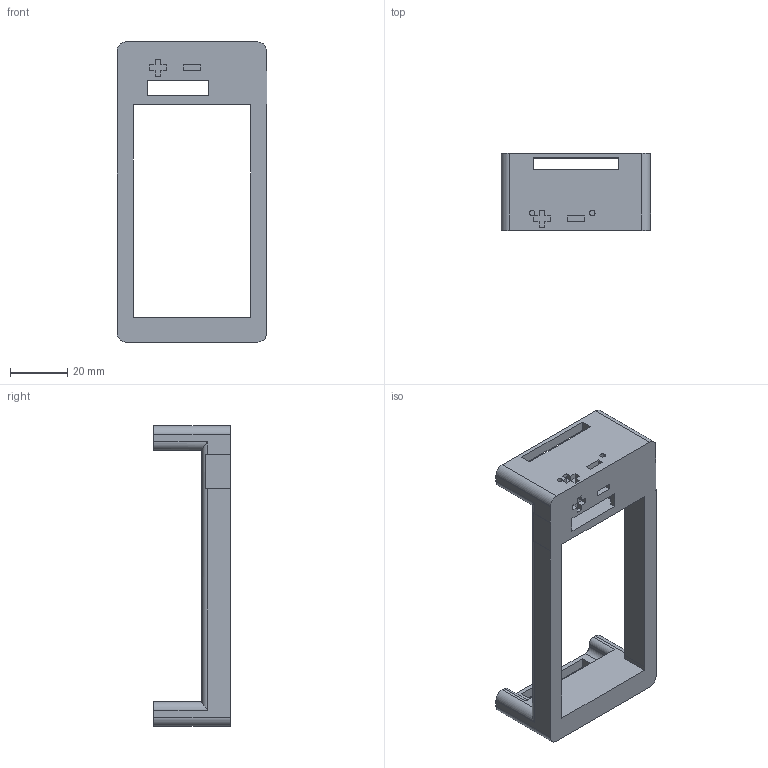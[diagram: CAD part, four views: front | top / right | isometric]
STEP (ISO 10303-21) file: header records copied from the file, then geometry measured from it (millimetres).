
FILE_DESCRIPTION (( 'STEP AP203' ), '1' );
FILE_NAME ('Battery_base.STEP', '2024-10-23T04:43:06', ( '' ), ( '' ), 'SwSTEP 2.0', 'SolidWorks 2024', '' );
FILE_SCHEMA (( 'CONFIG_CONTROL_DESIGN' ));
Length unit declared in the file: millimetre
Products named in the file (1): Battery_base
Bounding box: 52.23 x 26.85 x 104.8 mm (x, y, z)
Volume: 32194 mm3; surface area: 14818.1 mm2
Topology: 1 solids, 1 shells, 107 faces, 306 edges, 204 vertices
Faces by surface type: plane 85, cylinder 22
Entity records: 3613 total; most frequent: CARTESIAN_POINT 675, ORIENTED_EDGE 612, DIRECTION 562, EDGE_CURVE 306, VECTOR 256, LINE 256, VERTEX_POINT 204, AXIS2_PLACEMENT_3D 153
